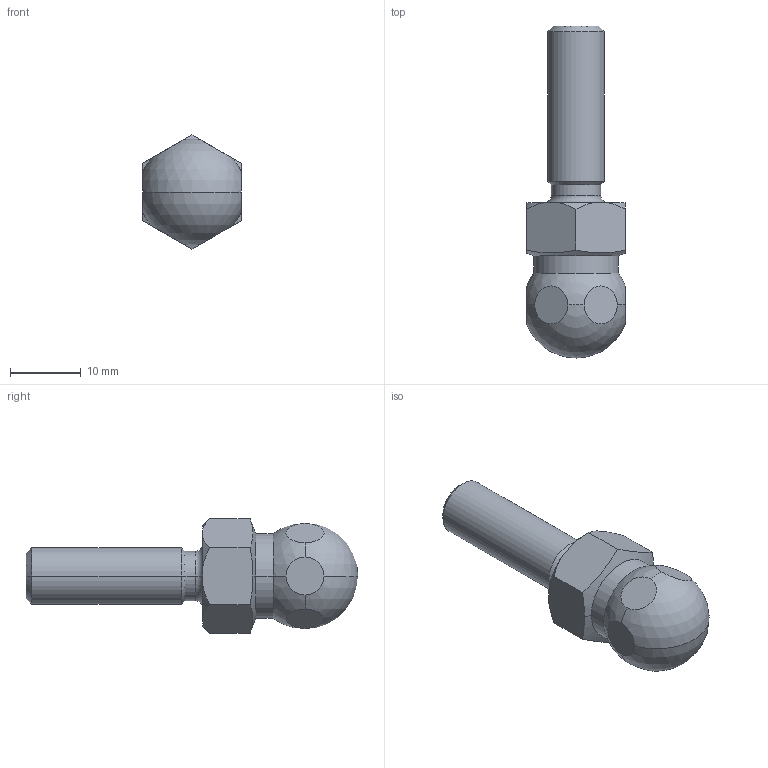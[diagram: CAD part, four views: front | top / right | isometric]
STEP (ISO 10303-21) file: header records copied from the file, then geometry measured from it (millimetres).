
FILE_DESCRIPTION(('STEP AP214'),'1');
FILE_NAME('C:/TPO v2/SharedFS/Outgoing/fath_098dm08025m.stp','2016-05-23T14:34:31',('TraceParts'),('TraceParts S.A.'),'Spatial InterOp 3D',' ',' ');
FILE_SCHEMA(('automotive_design'));
Length unit declared in the file: millimetre
Products named in the file (1): SW 17
Bounding box: 14 x 47 x 16.17 mm (x, y, z)
Volume: 4307.3 mm3; surface area: 1830.3 mm2
Topology: 1 solids, 1 shells, 38 faces, 100 edges, 61 vertices
Faces by surface type: plane 14, cone 12, cylinder 6, sphere 4, torus 2
Entity records: 1569 total; most frequent: CARTESIAN_POINT 316, DIRECTION 206, ORIENTED_EDGE 192, EDGE_CURVE 96, AXIS2_PLACEMENT_3D 91, VERTEX_POINT 61, CIRCLE 52, STYLED_ITEM 39
